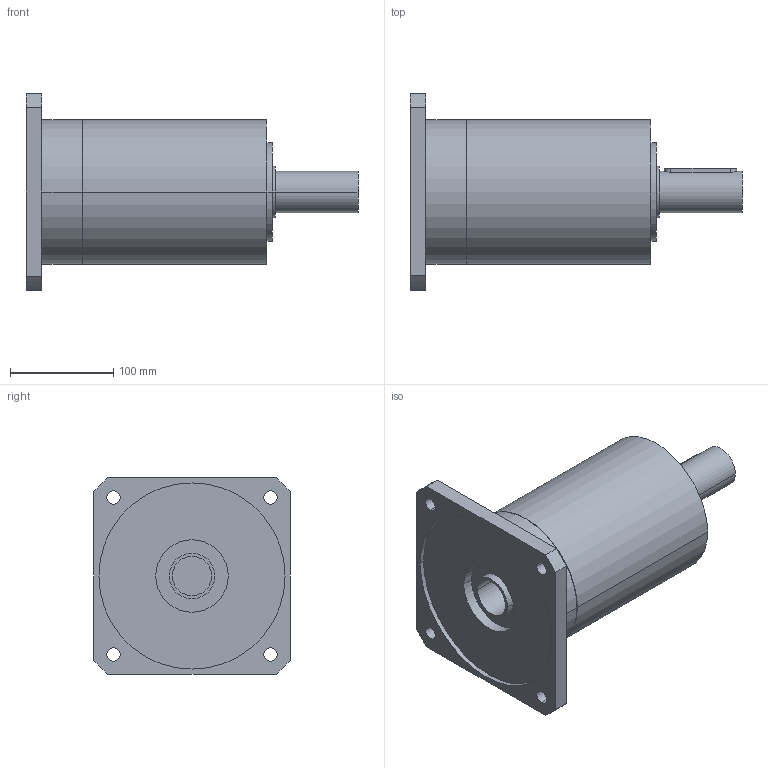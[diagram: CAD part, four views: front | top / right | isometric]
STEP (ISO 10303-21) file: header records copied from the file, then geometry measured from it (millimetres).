
FILE_DESCRIPTION(('CoCreate Modeling STEP Export'),'2;1');
FILE_NAME('GPR150_ig-9-12-16-20-28-35_40_B14_38_P06.stp','2014-08-19T17:04:32',(''),(''),'CoCreate Modeling STEP processor for AP214 (Solid Model)','CoCreate Modeling 16.00C 25-Feb-2009 (C) Parametric Technology GmbH','');
FILE_SCHEMA(('AUTOMOTIVE_DESIGN { 1 0 10303 214 1 1 1 1 }'));
Length unit declared in the file: millimetre
Products named in the file (2): GPR150_ig-9-12-16-20-28-35_40_B14_38_P06
Assembly tree (1 placements, depth 2):
  GPR150_ig-9-12-16-20-28-35_40_B14_38_P06
    GPR150_ig-9-12-16-20-28-35_40_B14_38_P06
Bounding box: 321 x 190 x 190 mm (x, y, z)
Volume: 3784460.5 mm3; surface area: 212749.5 mm2
Topology: 1 solids, 1 shells, 70 faces, 189 edges, 133 vertices
Faces by surface type: cylinder 42, plane 22, cone 6
Entity records: 1968 total; most frequent: CARTESIAN_POINT 385, ORIENTED_EDGE 374, DIRECTION 262, EDGE_CURVE 187, VERTEX_POINT 133, AXIS2_PLACEMENT_3D 98, EDGE_LOOP 92, FACE_OUTER_BOUND 70
